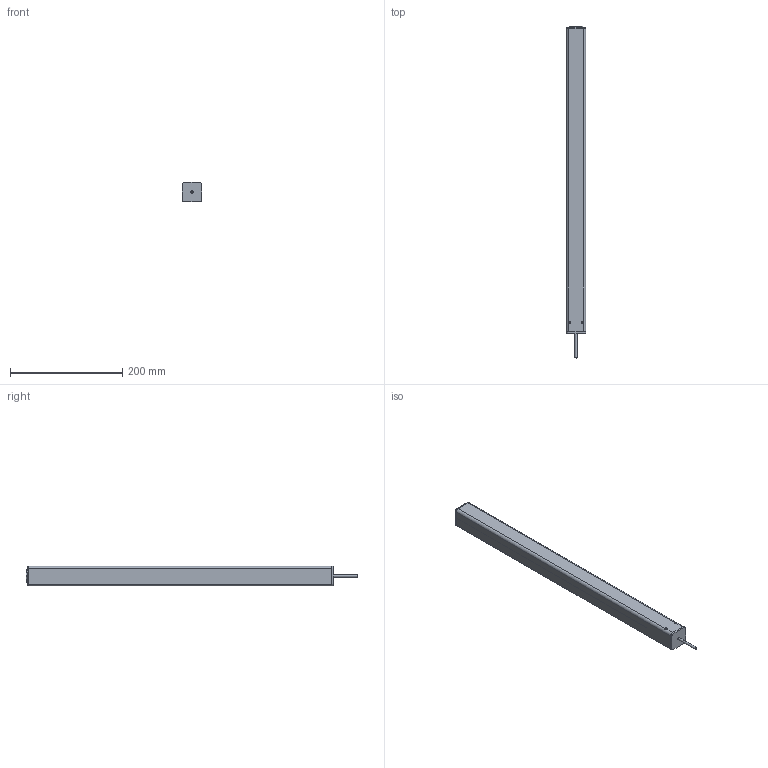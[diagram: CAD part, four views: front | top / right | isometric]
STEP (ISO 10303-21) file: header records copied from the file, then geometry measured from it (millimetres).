
FILE_DESCRIPTION(/* description */ ('Unknown'),/* implementation_level */ '2;1');
FILE_NAME(/* name */ '106.20004 Lineareinheit LA 1840_eingefahren',/* time_stamp */ '2017-08-24T11:39:01+02:00',/* author */ ('Unknown'),/* organization */ ('Unknown'),/* preprocessor_version */ 'ST-DEVELOPER v16.7',/* originating_system */ 'DEX',/* authorisation */ $);
FILE_SCHEMA (('AUTOMOTIVE_DESIGN {1 0 10303 214 3 1 1}'));
Products named in the file (9): 106.20004; 119.00004; 142.00014; 115.00008; 142.00011; 122.00018; 125.00051; 123.00004; 113.00002_70mm
Assembly tree (9 placements, depth 2):
  106.20004
    119.00004
    142.00014  x2
    115.00008
    142.00011
    122.00018
    125.00051
    123.00004
    113.00002_70mm
Bounding box: 35 x 590.5 x 35 mm (x, y, z)
Volume: 366183.3 mm3; surface area: 246650.4 mm2
Topology: 8 solids, 8 shells, 776 faces, 1818 edges, 1082 vertices
Faces by surface type: cylinder 273, bspline 224, plane 204, cone 36, torus 27, sphere 12
Full cylindrical faces by diameter (mm): 2.2 x1, 4 x7, 4.134 x4, 5 x1, 6.647 x1, 8.376 x1, 17.3 x1, 19 x1, 20.8 x3, 21 x1, 25 x1, 28.3 x1, 30.4 x1, 30.63 x1
Entity records: 74513 total; most frequent: CARTESIAN_POINT 58862, ORIENTED_EDGE 3422, DIRECTION 2541, EDGE_CURVE 1711, VERTEX_POINT 1037, AXIS2_PLACEMENT_3D 983, EDGE_LOOP 858, FACE_BOUND 858
